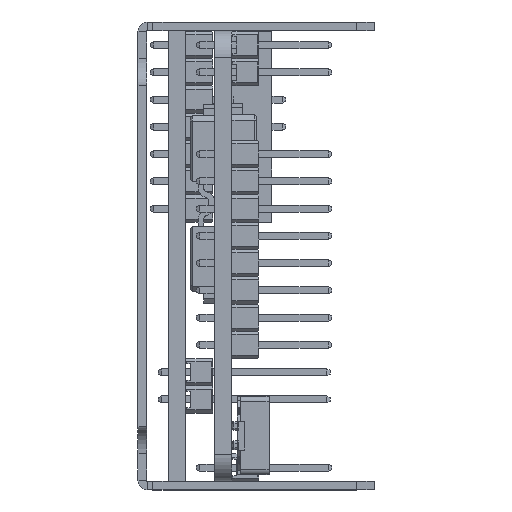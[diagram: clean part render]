
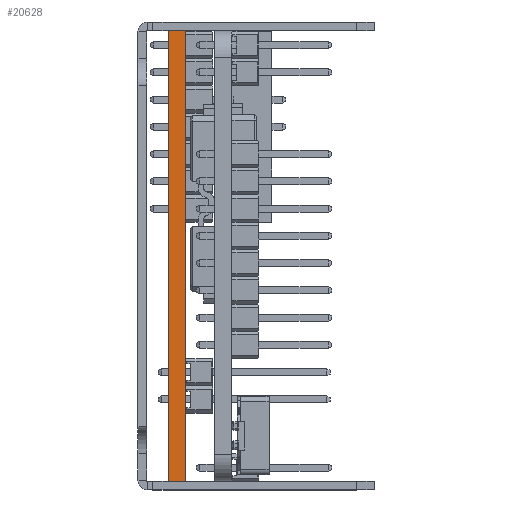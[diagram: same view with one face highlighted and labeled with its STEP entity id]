
A CAD part, left-side view. The second image highlights one B-rep face of the part: STEP entity #20628.
In plain terms, the highlighted planar face has unit normal (-1, 0, 0).
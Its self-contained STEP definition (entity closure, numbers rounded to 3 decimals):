
#651 = LINE ( 'NONE', #170872, #139974 ) ;
#4189 = DIRECTION ( 'NONE',  ( 0., 0., 1. ) ) ;
#4740 = EDGE_CURVE ( 'NONE', #61358, #23870, #133069, .T. ) ;
#8191 = EDGE_CURVE ( 'NONE', #111662, #23870, #73804, .T. ) ;
#10434 = EDGE_LOOP ( 'NONE', ( #135954, #24449, #112876, #154194 ) ) ;
#12654 = DIRECTION ( 'NONE',  ( -1., 0., 0. ) ) ;
#20628 = ADVANCED_FACE ( 'NONE', ( #164494 ), #39420, .T. ) ;
#23870 = VERTEX_POINT ( 'NONE', #115665 ) ;
#24449 = ORIENTED_EDGE ( 'NONE', *, *, #133588, .F. ) ;
#39420 = PLANE ( 'NONE',  #59465 ) ;
#59465 = AXIS2_PLACEMENT_3D ( 'NONE', #96091, #12654, #110014 ) ;
#61358 = VERTEX_POINT ( 'NONE', #89021 ) ;
#64138 = CARTESIAN_POINT ( 'NONE',  ( -44., -4.45, 0. ) ) ;
#71882 = CARTESIAN_POINT ( 'NONE',  ( -44., -4.45, 0. ) ) ;
#73804 = LINE ( 'NONE', #71882, #147762 ) ;
#77881 = DIRECTION ( 'NONE',  ( 0., 0., 1. ) ) ;
#86794 = VERTEX_POINT ( 'NONE', #101235 ) ;
#89021 = CARTESIAN_POINT ( 'NONE',  ( -44., -2.85, -43.6 ) ) ;
#96091 = CARTESIAN_POINT ( 'NONE',  ( -44., -4.45, 0. ) ) ;
#97232 = DIRECTION ( 'NONE',  ( 0., 1., 0. ) ) ;
#100474 = VECTOR ( 'NONE', #77881, 1000. ) ;
#101235 = CARTESIAN_POINT ( 'NONE',  ( -44., -4.45, -43.6 ) ) ;
#110014 = DIRECTION ( 'NONE',  ( 0., 1., 0. ) ) ;
#111662 = VERTEX_POINT ( 'NONE', #64138 ) ;
#112876 = ORIENTED_EDGE ( 'NONE', *, *, #150339, .T. ) ;
#115665 = CARTESIAN_POINT ( 'NONE',  ( -44., -2.85, 0. ) ) ;
#122463 = VECTOR ( 'NONE', #97232, 1000. ) ;
#133069 = LINE ( 'NONE', #147119, #100474 ) ;
#133588 = EDGE_CURVE ( 'NONE', #86794, #61358, #159405, .T. ) ;
#135954 = ORIENTED_EDGE ( 'NONE', *, *, #4740, .F. ) ;
#139974 = VECTOR ( 'NONE', #4189, 1000. ) ;
#147119 = CARTESIAN_POINT ( 'NONE',  ( -44., -2.85, 0. ) ) ;
#147762 = VECTOR ( 'NONE', #169143, 1000. ) ;
#150339 = EDGE_CURVE ( 'NONE', #86794, #111662, #651, .T. ) ;
#152521 = CARTESIAN_POINT ( 'NONE',  ( -44., -4.45, -43.6 ) ) ;
#154194 = ORIENTED_EDGE ( 'NONE', *, *, #8191, .T. ) ;
#159405 = LINE ( 'NONE', #152521, #122463 ) ;
#164494 = FACE_OUTER_BOUND ( 'NONE', #10434, .T. ) ;
#169143 = DIRECTION ( 'NONE',  ( 0., 1., 0. ) ) ;
#170872 = CARTESIAN_POINT ( 'NONE',  ( -44., -4.45, 0. ) ) ;
